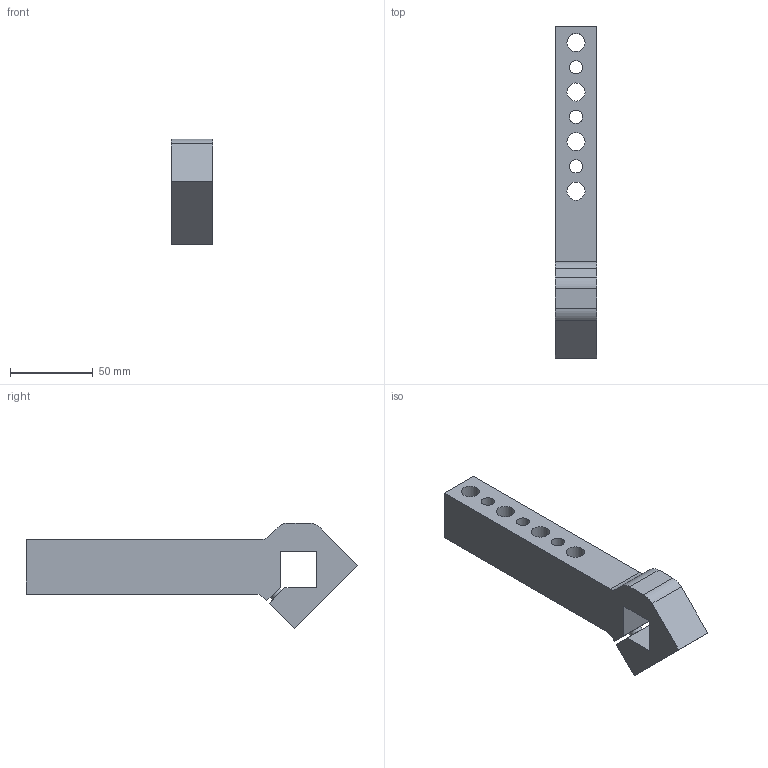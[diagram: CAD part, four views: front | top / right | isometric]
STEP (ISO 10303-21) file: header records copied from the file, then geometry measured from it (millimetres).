
FILE_DESCRIPTION(/* description */ (''),/* implementation_level */ '2;1');
FILE_NAME(/* name */ 'C:\PNX_VAULTFOLDER\Area Tecnica\Disegni\VARIE-3D\Componenti\7000\QNACA###M\QNACA008M.stp',/* time_stamp */ '2018-10-18T14:52:33+02:00',/* author */ ('donadda1'),/* organization */ ('Pneumax S.p.A.'),/* preprocessor_version */ 'ST-DEVELOPER v17',/* originating_system */ 'Autodesk Inventor 2019',/* authorisation */ '');
FILE_SCHEMA (('AUTOMOTIVE_DESIGN { 1 0 10303 214 3 1 1 }'));
Length unit declared in the file: millimetre
Products named in the file (1): QNACA008M
Bounding box: 25 x 201.06 x 64.06 mm (x, y, z)
Volume: 147486.1 mm3; surface area: 33660.3 mm2
Topology: 1 solids, 1 shells, 29 faces, 81 edges, 54 vertices
Faces by surface type: plane 17, cylinder 12
Full cylindrical faces by diameter (mm): 8 x4, 11 x4
Entity records: 1010 total; most frequent: DIRECTION 165, CARTESIAN_POINT 165, ORIENTED_EDGE 162, EDGE_CURVE 81, LINE 57, VECTOR 57, VERTEX_POINT 54, AXIS2_PLACEMENT_3D 54
